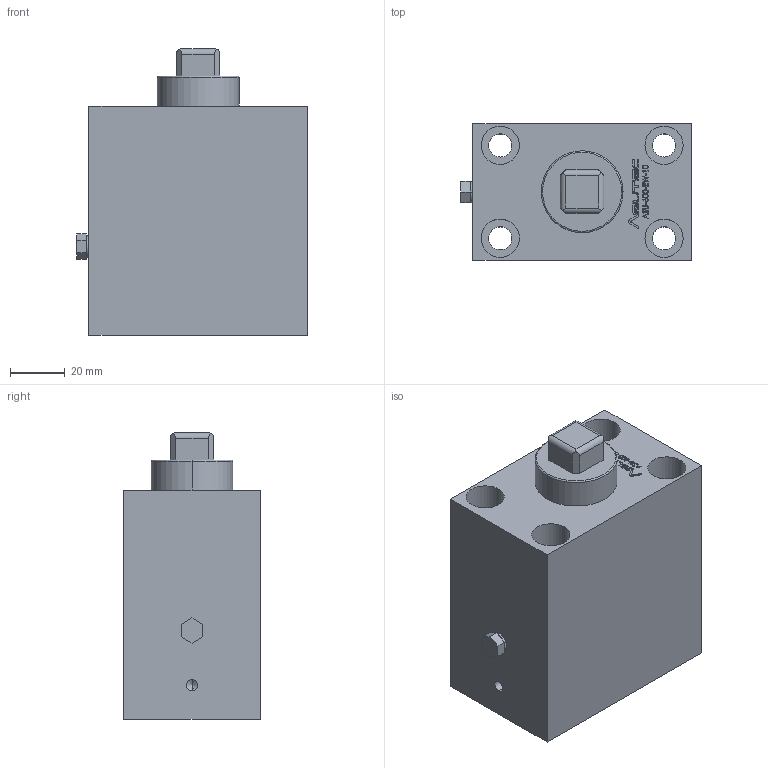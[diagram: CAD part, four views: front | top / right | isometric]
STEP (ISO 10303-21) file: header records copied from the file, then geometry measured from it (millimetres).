
FILE_DESCRIPTION (( 'STEP AP203' ), '1' );
FILE_NAME ('ASU-600-EW-10.STEP', '2013-11-15T20:00:09', ( '' ), ( '' ), 'SwSTEP 2.0', 'SolidWorks 2010', '' );
FILE_SCHEMA (( 'CONFIG_CONTROL_DESIGN' ));
Length unit declared in the file: millimetre
Products named in the file (1): ASU-600-EW-10
Bounding box: 84.5 x 50 x 105 mm (x, y, z)
Volume: 316590.5 mm3; surface area: 43094.2 mm2
Topology: 1 solids, 2 shells, 417 faces, 1123 edges, 738 vertices
Faces by surface type: plane 182, cylinder 163, bspline 58, cone 12, torus 2
Entity records: 18874 total; most frequent: CARTESIAN_POINT 8489, ORIENTED_EDGE 2222, DIRECTION 2025, EDGE_CURVE 1111, VERTEX_POINT 738, AXIS2_PLACEMENT_3D 682, LINE 661, VECTOR 661
